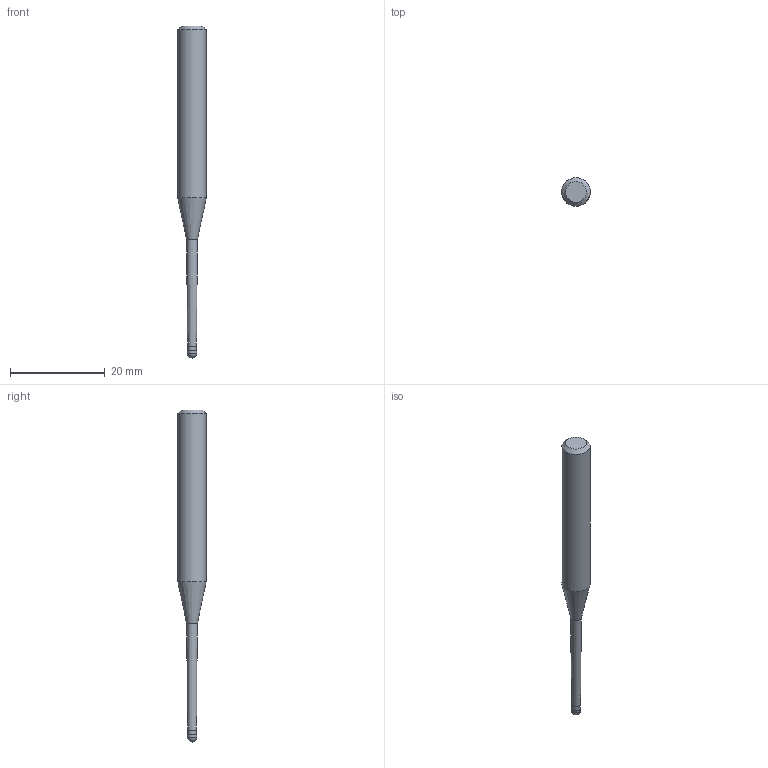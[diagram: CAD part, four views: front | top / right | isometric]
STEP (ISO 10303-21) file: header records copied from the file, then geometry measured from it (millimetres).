
FILE_DESCRIPTION((''),'2;1');
FILE_NAME('C:\Users\nsx150\AppData\Local\Temp\Mastercam 2021\E0ENTZRV18\TEMP.step','2021-09-02T09:56:42',(''),(''),'STEP Write','Mastercam 2021 ... CNC Software, Inc.','');
FILE_SCHEMA(('AUTOMOTIVE_DESIGN'));
Length unit declared in the file: millimetre
Products named in the file (1): None
Bounding box: 6 x 6 x 70 mm (x, y, z)
Volume: 1228.1 mm3; surface area: 986.3 mm2
Topology: 2 solids, 2 shells, 10 faces, 16 edges, 9 vertices
Faces by surface type: plane 3, cylinder 3, cone 3, sphere 1
Full cylindrical faces by diameter (mm): 1.875 x1, 2 x1, 6 x1
Entity records: 232 total; most frequent: DIRECTION 40, CARTESIAN_POINT 28, AXIS2_PLACEMENT_3D 20, ORIENTED_EDGE 16, EDGE_LOOP 16, STYLED_ITEM 13, ADVANCED_FACE 10, FACE_BOUND 9
